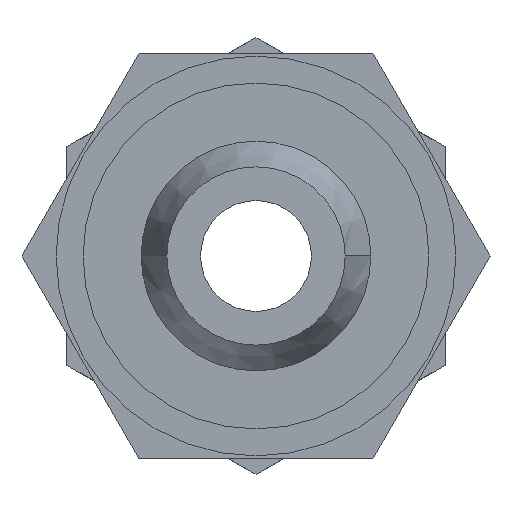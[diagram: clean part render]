
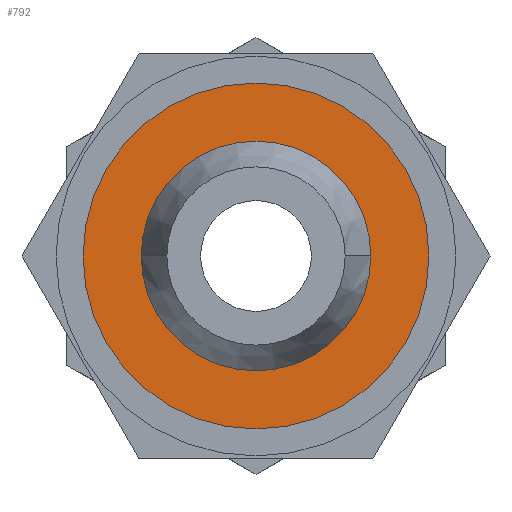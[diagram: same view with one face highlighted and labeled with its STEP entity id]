
A CAD part, front view. The second image highlights one B-rep face of the part: STEP entity #792.
In plain terms, the highlighted planar face has unit normal (0, -1, 0).
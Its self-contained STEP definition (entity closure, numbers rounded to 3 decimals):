
#27 = CARTESIAN_POINT ( 'NONE',  ( 0., 5., 6.4 ) ) ;
#40 = CARTESIAN_POINT ( 'NONE',  ( 3.75, 5., 0. ) ) ;
#88 = DIRECTION ( 'NONE',  ( 0., -1., 0. ) ) ;
#91 = AXIS2_PLACEMENT_3D ( 'NONE', #1807, #88, #929 ) ;
#95 = CARTESIAN_POINT ( 'NONE',  ( 0., 5., 0. ) ) ;
#116 = DIRECTION ( 'NONE',  ( 1., 0., 0. ) ) ;
#122 = CIRCLE ( 'NONE', #1234, 3.75 ) ;
#165 = CIRCLE ( 'NONE', #1140, 6.4 ) ;
#279 = FACE_BOUND ( 'NONE', #709, .T. ) ;
#299 = DIRECTION ( 'NONE',  ( 0., 0., -1. ) ) ;
#342 = ORIENTED_EDGE ( 'NONE', *, *, #866, .F. ) ;
#363 = ORIENTED_EDGE ( 'NONE', *, *, #1418, .T. ) ;
#378 = FACE_OUTER_BOUND ( 'NONE', #611, .T. ) ;
#438 = EDGE_CURVE ( 'NONE', #991, #1126, #122, .T. ) ;
#609 = CARTESIAN_POINT ( 'NONE',  ( -3.75, 5., 0. ) ) ;
#611 = EDGE_LOOP ( 'NONE', ( #1351, #363 ) ) ;
#646 = VERTEX_POINT ( 'NONE', #27 ) ;
#647 = DIRECTION ( 'NONE',  ( 0., -1., 0. ) ) ;
#655 = CIRCLE ( 'NONE', #912, 6.4 ) ;
#663 = PLANE ( 'NONE',  #1743 ) ;
#709 = EDGE_LOOP ( 'NONE', ( #1693, #342 ) ) ;
#792 = ADVANCED_FACE ( 'NONE', ( #279, #378 ), #663, .T. ) ;
#866 = EDGE_CURVE ( 'NONE', #1126, #991, #1438, .T. ) ;
#912 = AXIS2_PLACEMENT_3D ( 'NONE', #1067, #927, #915 ) ;
#915 = DIRECTION ( 'NONE',  ( 0., 0., -1. ) ) ;
#927 = DIRECTION ( 'NONE',  ( 0., -1., 0. ) ) ;
#929 = DIRECTION ( 'NONE',  ( 1., 0., 0. ) ) ;
#991 = VERTEX_POINT ( 'NONE', #40 ) ;
#1062 = DIRECTION ( 'NONE',  ( 0., 0., -1. ) ) ;
#1067 = CARTESIAN_POINT ( 'NONE',  ( 0., 5., 0. ) ) ;
#1126 = VERTEX_POINT ( 'NONE', #609 ) ;
#1140 = AXIS2_PLACEMENT_3D ( 'NONE', #1147, #1295, #299 ) ;
#1147 = CARTESIAN_POINT ( 'NONE',  ( 0., 5., 0. ) ) ;
#1198 = EDGE_CURVE ( 'NONE', #1540, #646, #655, .T. ) ;
#1234 = AXIS2_PLACEMENT_3D ( 'NONE', #1816, #1662, #116 ) ;
#1295 = DIRECTION ( 'NONE',  ( 0., -1., 0. ) ) ;
#1351 = ORIENTED_EDGE ( 'NONE', *, *, #1198, .T. ) ;
#1418 = EDGE_CURVE ( 'NONE', #646, #1540, #165, .T. ) ;
#1438 = CIRCLE ( 'NONE', #91, 3.75 ) ;
#1537 = CARTESIAN_POINT ( 'NONE',  ( 0., 5., -6.4 ) ) ;
#1540 = VERTEX_POINT ( 'NONE', #1537 ) ;
#1662 = DIRECTION ( 'NONE',  ( 0., -1., 0. ) ) ;
#1693 = ORIENTED_EDGE ( 'NONE', *, *, #438, .F. ) ;
#1743 = AXIS2_PLACEMENT_3D ( 'NONE', #95, #647, #1062 ) ;
#1807 = CARTESIAN_POINT ( 'NONE',  ( 0., 5., 0. ) ) ;
#1816 = CARTESIAN_POINT ( 'NONE',  ( 0., 5., 0. ) ) ;
